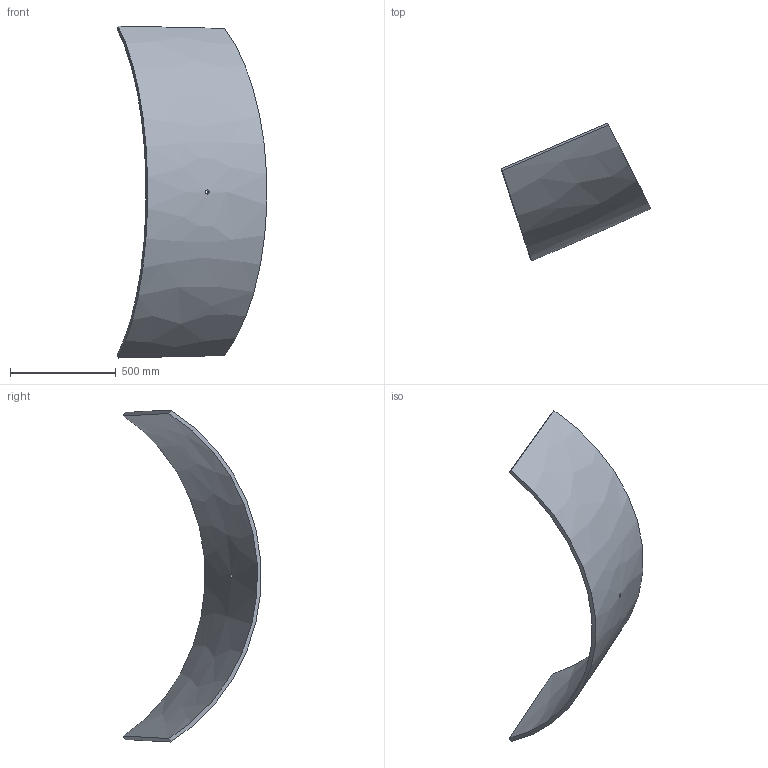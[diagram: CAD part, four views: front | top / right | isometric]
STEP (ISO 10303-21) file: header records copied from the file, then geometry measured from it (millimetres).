
FILE_DESCRIPTION (( 'STEP AP214' ), '1' );
FILE_NAME ('Section 11-B.STEP', '2025-01-09T19:43:25', ( '' ), ( '' ), 'SwSTEP 2.0', 'SolidWorks 2024', '' );
FILE_SCHEMA (( 'AUTOMOTIVE_DESIGN' ));
Length unit declared in the file: inch
Products named in the file (1): Section 11-B
Bounding box: 708.32 x 651.74 x 1572.22 mm (x, y, z)
Volume: 21052897.4 mm3; surface area: 2303139.5 mm2
Topology: 1 solids, 1 shells, 7 faces, 15 edges, 10 vertices
Faces by surface type: bspline 6, cylinder 1
Full cylindrical faces by diameter (mm): 19.447 x1
Entity records: 521 total; most frequent: CARTESIAN_POINT 384, ORIENTED_EDGE 28, EDGE_CURVE 14, B_SPLINE_CURVE_WITH_KNOTS 14, EDGE_LOOP 10, VERTEX_POINT 10, FACE_OUTER_BOUND 8, ADVANCED_FACE 7
